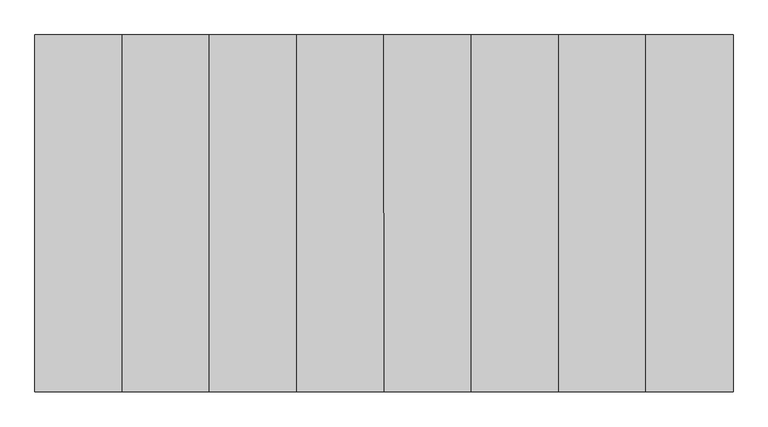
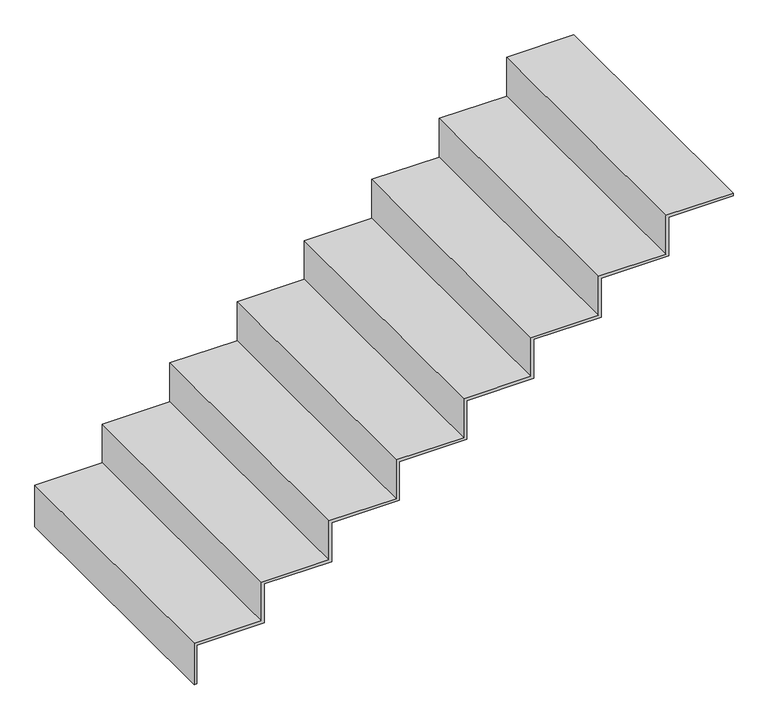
"""IFC4 building model written with IfcOpenShell, lengths in millimetres: stair flight geometry, HUELLA 50MM-CONTRAHUELLA 13MM."""

from ifc_helpers import new_model, si_unit, frame, origin, place, context, project, spatial, polyline, outline, extrude, source, transform, mapped, element, save


def stair_flight_795cd8ad(model_context):
    return source(origin(), model_context, "Body", "SweptSolid", [
        extrude(outline(polyline([(186.7105263, 0.0), (186.7105263, -12.5), (12.5, -12.5), (12.5, -298.5), (-161.7105263, -298.5), (-161.7105263, -584.5), (-335.9210526, -584.5), (-335.9210526, -870.5), (-510.1315789, -870.5), (-510.1315789, -1156.5), (-684.3421052, -1156.5), (-684.3421052, -1442.5), (-858.5526316, -1442.5), (-858.5526316, -1728.5), (-1032.7631579, -1728.5), (-1032.7631579, -2014.5), (-1206.9736842, -2014.5), (-1206.9736842, -2288.0), (-1219.4736842, -2288.0), (-1219.4736842, -2002.0), (-1045.2631579, -2002.0), (-1045.2631579, -1716.0), (-871.0526316, -1716.0), (-871.0526316, -1430.0), (-696.8421052, -1430.0), (-696.8421052, -1144.0), (-522.6315789, -1144.0), (-522.6315789, -858.0), (-348.4210526, -858.0), (-348.4210526, -572.0), (-174.2105263, -572.0), (-174.2105263, -286.0), (0.0, -286.0), (0.0, 0.0), (186.7105263, 0.0)])), frame((4890.7173693, 22020.2304035, 1916.3157895), z_axis=(-1.2869177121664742e-12, 1.0, 0.0), x_axis=(0.0, 0.0, -1.0)), (0.0, 0.0, 1.0), 1170.0),
    ])


if __name__ == "__main__":
    model = new_model("IFC4")
    model_context = context("Model", 3, world=origin())
    ifc_project = project(units=[si_unit("LENGTHUNIT", "METRE", prefix="MILLI")], contexts=[model_context])
    site = spatial("IfcSite", under=ifc_project)
    building = spatial("IfcBuilding", under=site)
    placement = place(None, origin())
    stair_flight_shape = stair_flight_795cd8ad(model_context)
    element("IfcStairFlight", 1, ObjectType="HUELLA 50MM-CONTRAHUELLA 13MM", at=placement, inside=building, context=model_context, shape_type="MappedRepresentation", body=[
        mapped(stair_flight_shape, transform((0.0, 0.0, 0.0), x_axis=(1.0, 0.0, 0.0), y_axis=(0.0, 1.0, 0.0), z_axis=(0.0, 0.0, 1.0))),
    ])
    save(model, "model.ifc")
